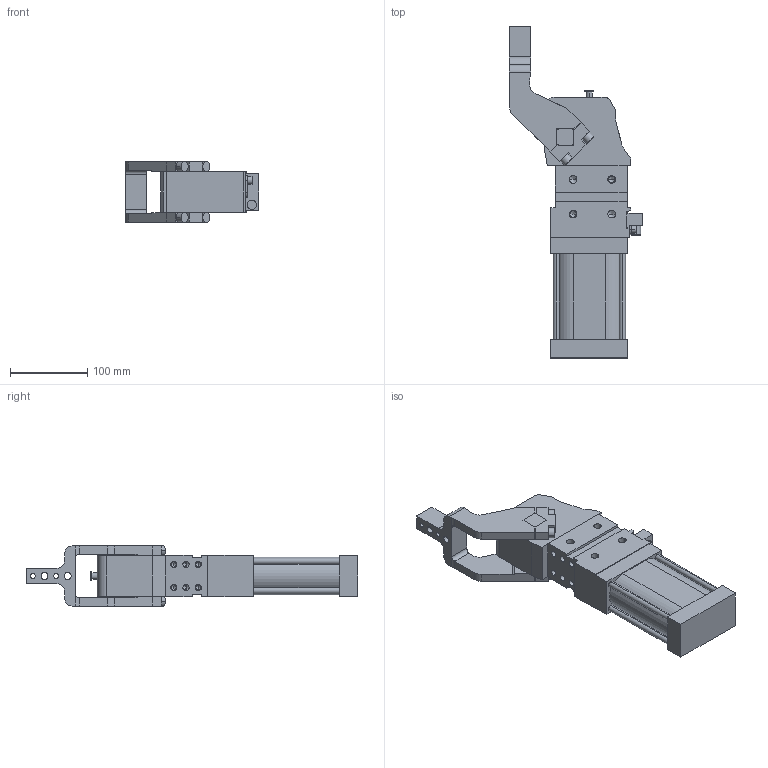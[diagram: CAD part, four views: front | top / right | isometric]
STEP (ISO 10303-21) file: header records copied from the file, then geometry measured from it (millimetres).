
FILE_DESCRIPTION (( 'STEP AP214' ), '1' );
FILE_NAME ('cpl63h3ci1g_107.STEP', '2023-01-26T10:47:19', ( '' ), ( '' ), 'SwSTEP 2.0', 'SolidWorks 2022', '' );
FILE_SCHEMA (( 'AUTOMOTIVE_DESIGN' ));
Length unit declared in the file: millimetre
Products named in the file (4): cpl63h3ci1g_107; meccanica_cpl_63; leva_cx_offset_45_cpl63; blocchetto_VEP_0
Assembly tree (3 placements, depth 2):
  cpl63h3ci1g_107
    meccanica_cpl_63
    blocchetto_VEP_0
    leva_cx_offset_45_cpl63
Bounding box: 173.5 x 430.5 x 79 mm (x, y, z)
Volume: 1800110.4 mm3; surface area: 192578.9 mm2
Topology: 3 solids, 3 shells, 398 faces, 1043 edges, 643 vertices
Faces by surface type: plane 200, cylinder 148, cone 50
Entity records: 13505 total; most frequent: DIRECTION 2127, CARTESIAN_POINT 2120, ORIENTED_EDGE 1994, EDGE_CURVE 997, AXIS2_PLACEMENT_3D 732, LINE 663, VECTOR 663, VERTEX_POINT 643
